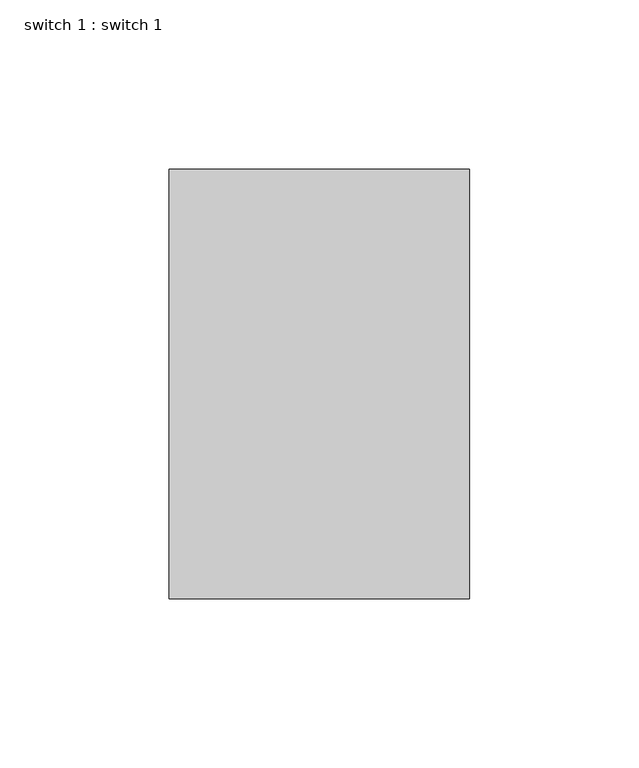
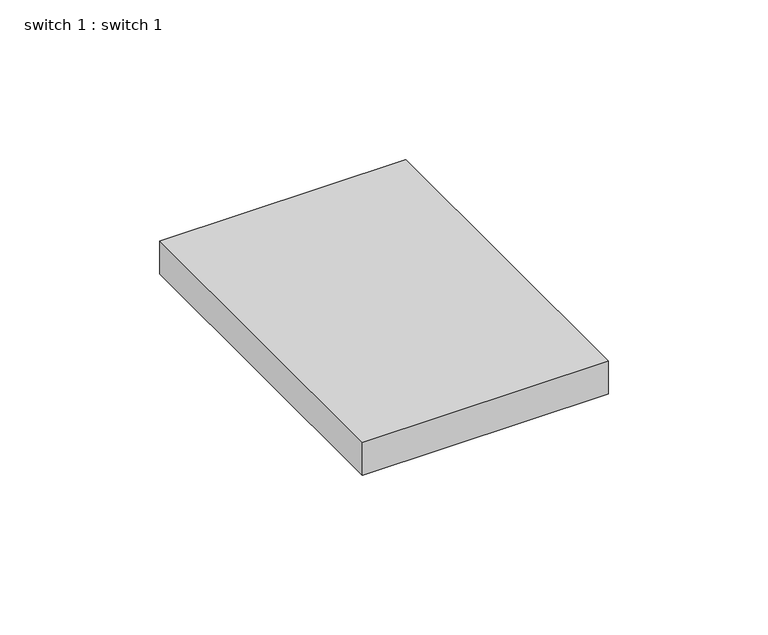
"""IFC4 building model written with IfcOpenShell, lengths in millimetres: proxy geometry, switch 1 : switch 1."""

from ifc_helpers import new_model, si_unit, origin, origin_with_axes, place, context, project, spatial, polyline, outline, extrude, source, transform, mapped, element, save


def switch_1_switch_1_abfddd09(model_context):
    return source(origin(), model_context, "Body", "SweptSolid", [
        extrude(outline(polyline([(-44.45, 0.0), (-44.45, 127.0), (44.45, 127.0), (44.45, 0.0), (-44.45, 0.0)])), origin_with_axes(), (0.0, 0.0, 1.0), 12.7),
    ])


if __name__ == "__main__":
    model = new_model("IFC4")
    model_context = context("Model", 3, world=origin())
    ifc_project = project(units=[si_unit("LENGTHUNIT", "METRE", prefix="MILLI")], contexts=[model_context])
    site = spatial("IfcSite", under=ifc_project)
    building = spatial("IfcBuilding", under=site)
    placement = place(None, origin())
    switch_1_switch_1_shape = switch_1_switch_1_abfddd09(model_context)
    element("IfcBuildingElementProxy", 1, Name="switch 1 : switch 1", ObjectType="switch 1 : switch 1", at=placement, inside=building, context=model_context, shape_type="MappedRepresentation", body=[
        mapped(switch_1_switch_1_shape, transform((0.0, 0.0, 0.0), x_axis=(1.0, 0.0, 0.0), y_axis=(0.0, 1.0, 0.0), z_axis=(0.0, 0.0, 1.0))),
    ])
    save(model, "model.ifc")
